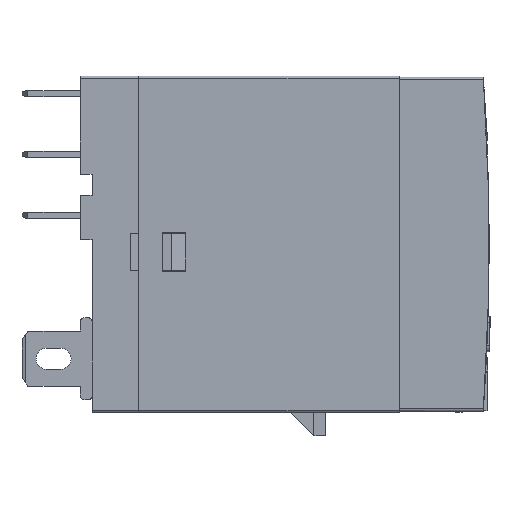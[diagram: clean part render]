
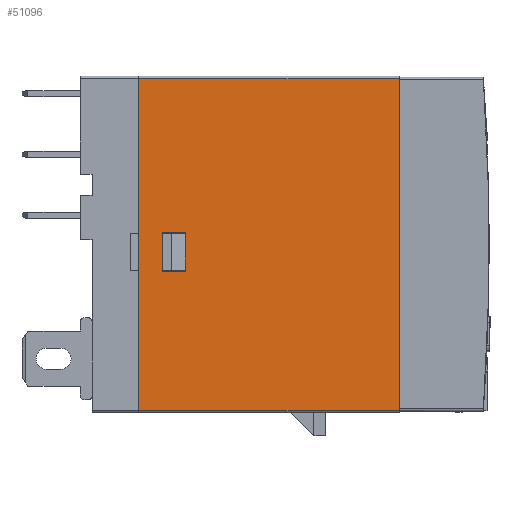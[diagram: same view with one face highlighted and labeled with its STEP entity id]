
A CAD part, front view. The second image highlights one B-rep face of the part: STEP entity #51096.
In plain terms, the highlighted planar face has unit normal (0, -1, 0).
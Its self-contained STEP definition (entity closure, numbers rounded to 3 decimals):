
#1501 = ORIENTED_EDGE ( 'NONE', *, *, #21826, .T. ) ;
#1612 = EDGE_CURVE ( 'NONE', #1834, #65452, #27492, .T. ) ;
#1834 = VERTEX_POINT ( 'NONE', #66409 ) ;
#2586 = CARTESIAN_POINT ( 'NONE',  ( 8., 0., 15.2 ) ) ;
#5214 = CARTESIAN_POINT ( 'NONE',  ( 6., 0., 15.2 ) ) ;
#5583 = DIRECTION ( 'NONE',  ( 1., 0., 0. ) ) ;
#7616 = CARTESIAN_POINT ( 'NONE',  ( 4., 0., 0. ) ) ;
#9317 = EDGE_CURVE ( 'NONE', #65452, #28948, #47355, .T. ) ;
#9970 = DIRECTION ( 'NONE',  ( 0., 0., -1. ) ) ;
#13304 = ORIENTED_EDGE ( 'NONE', *, *, #32068, .F. ) ;
#15227 = ORIENTED_EDGE ( 'NONE', *, *, #16622, .F. ) ;
#15531 = ORIENTED_EDGE ( 'NONE', *, *, #1612, .F. ) ;
#15786 = EDGE_CURVE ( 'NONE', #54645, #21454, #31271, .T. ) ;
#16622 = EDGE_CURVE ( 'NONE', #49136, #1834, #43259, .T. ) ;
#19004 = FACE_BOUND ( 'NONE', #25824, .T. ) ;
#19020 = CARTESIAN_POINT ( 'NONE',  ( 26.3, 0., 28.4 ) ) ;
#19419 = DIRECTION ( 'NONE',  ( -1., 0., 0. ) ) ;
#19436 = LINE ( 'NONE', #19020, #71015 ) ;
#21454 = VERTEX_POINT ( 'NONE', #7616 ) ;
#21826 = EDGE_CURVE ( 'NONE', #21454, #22610, #25669, .T. ) ;
#22610 = VERTEX_POINT ( 'NONE', #78154 ) ;
#23295 = DIRECTION ( 'NONE',  ( 0., 0., -1. ) ) ;
#23907 = CARTESIAN_POINT ( 'NONE',  ( 26.3, 0., 28.4 ) ) ;
#25669 = LINE ( 'NONE', #69860, #43476 ) ;
#25824 = EDGE_LOOP ( 'NONE', ( #13304, #82699, #15531, #15227 ) ) ;
#27492 = LINE ( 'NONE', #53213, #53720 ) ;
#27520 = DIRECTION ( 'NONE',  ( 0., 1., 0. ) ) ;
#28899 = CARTESIAN_POINT ( 'NONE',  ( 26.3, 0., 28.6 ) ) ;
#28948 = VERTEX_POINT ( 'NONE', #2586 ) ;
#31271 = LINE ( 'NONE', #82762, #54707 ) ;
#32068 = EDGE_CURVE ( 'NONE', #28948, #49136, #61315, .T. ) ;
#32420 = CARTESIAN_POINT ( 'NONE',  ( 8., 0., 11.9 ) ) ;
#32421 = CARTESIAN_POINT ( 'NONE',  ( 4., 0., 28.4 ) ) ;
#33923 = CARTESIAN_POINT ( 'NONE',  ( 26.3, 0., 14.2 ) ) ;
#39138 = CARTESIAN_POINT ( 'NONE',  ( 6., 0., 15.2 ) ) ;
#40069 = DIRECTION ( 'NONE',  ( 0., 0., 1. ) ) ;
#42612 = ORIENTED_EDGE ( 'NONE', *, *, #15786, .T. ) ;
#43259 = LINE ( 'NONE', #5214, #43866 ) ;
#43397 = LINE ( 'NONE', #28899, #57210 ) ;
#43476 = VECTOR ( 'NONE', #5583, 1000. ) ;
#43866 = VECTOR ( 'NONE', #49310, 1000. ) ;
#46932 = CARTESIAN_POINT ( 'NONE',  ( 8., 0., 11.9 ) ) ;
#47355 = LINE ( 'NONE', #46932, #60605 ) ;
#49136 = VERTEX_POINT ( 'NONE', #39138 ) ;
#49310 = DIRECTION ( 'NONE',  ( 0., 0., -1. ) ) ;
#51096 = ADVANCED_FACE ( 'NONE', ( #19004, #66991 ), #52827, .F. ) ;
#51489 = EDGE_LOOP ( 'NONE', ( #74532, #68306, #42612, #1501 ) ) ;
#51751 = EDGE_CURVE ( 'NONE', #75907, #54645, #19436, .T. ) ;
#52660 = EDGE_CURVE ( 'NONE', #75907, #22610, #43397, .T. ) ;
#52827 = PLANE ( 'NONE',  #80368 ) ;
#53213 = CARTESIAN_POINT ( 'NONE',  ( 8., 0., 11.9 ) ) ;
#53720 = VECTOR ( 'NONE', #72116, 1000. ) ;
#54645 = VERTEX_POINT ( 'NONE', #32421 ) ;
#54707 = VECTOR ( 'NONE', #9970, 1000. ) ;
#57161 = DIRECTION ( 'NONE',  ( -1., 0., 0. ) ) ;
#57210 = VECTOR ( 'NONE', #23295, 1000. ) ;
#60605 = VECTOR ( 'NONE', #40069, 1000. ) ;
#61315 = LINE ( 'NONE', #81021, #70479 ) ;
#65452 = VERTEX_POINT ( 'NONE', #32420 ) ;
#66409 = CARTESIAN_POINT ( 'NONE',  ( 6., 0., 11.9 ) ) ;
#66922 = DIRECTION ( 'NONE',  ( -1., 0., 0. ) ) ;
#66991 = FACE_OUTER_BOUND ( 'NONE', #51489, .T. ) ;
#68306 = ORIENTED_EDGE ( 'NONE', *, *, #51751, .T. ) ;
#69860 = CARTESIAN_POINT ( 'NONE',  ( 26.3, 0., 0. ) ) ;
#70479 = VECTOR ( 'NONE', #66922, 1000. ) ;
#71015 = VECTOR ( 'NONE', #57161, 1000. ) ;
#72116 = DIRECTION ( 'NONE',  ( 1., 0., 0. ) ) ;
#74532 = ORIENTED_EDGE ( 'NONE', *, *, #52660, .F. ) ;
#75907 = VERTEX_POINT ( 'NONE', #23907 ) ;
#78154 = CARTESIAN_POINT ( 'NONE',  ( 26.3, 0., 0. ) ) ;
#80368 = AXIS2_PLACEMENT_3D ( 'NONE', #33923, #27520, #19419 ) ;
#81021 = CARTESIAN_POINT ( 'NONE',  ( 8., 0., 15.2 ) ) ;
#82699 = ORIENTED_EDGE ( 'NONE', *, *, #9317, .F. ) ;
#82762 = CARTESIAN_POINT ( 'NONE',  ( 4., 0., 14.2 ) ) ;
